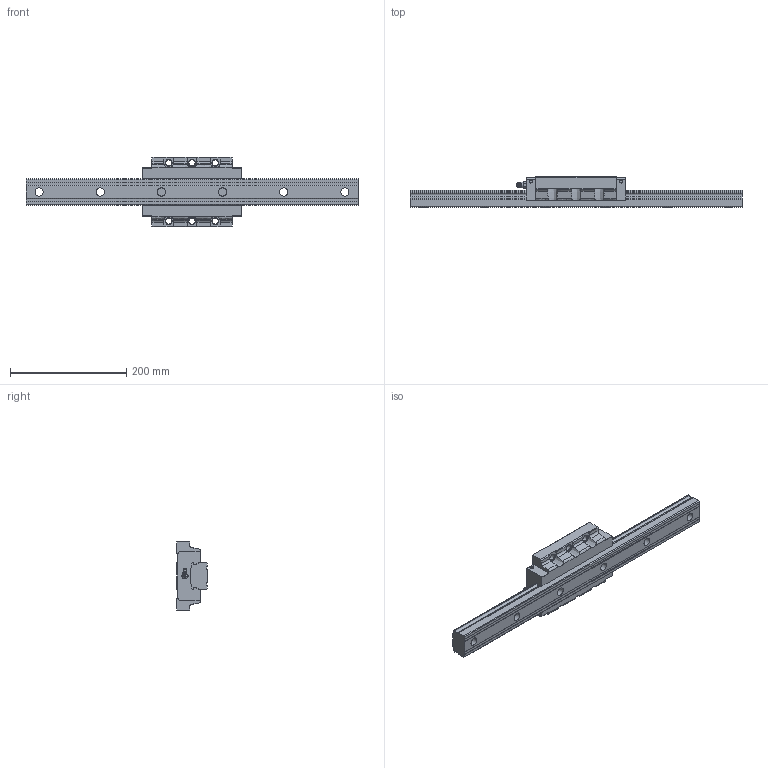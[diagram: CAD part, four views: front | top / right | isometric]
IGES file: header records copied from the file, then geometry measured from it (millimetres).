
Start section: Data from Parasolid IGES Translator 26.0.171, Copyright(c) 2006 Siemens PLM Software. All Rights Reserved.
Global section: file name: SVR45LC1SS-570L_G22-5_0_B-PT18_199-5_0_0_0_1.igs; native system: By Siemens PLM Incorporated; preprocessor: XPlus GENERIC/IGES 26.0.171; author: Noname; organization: Noname; date: 20240517.072342; units: millimetre
Bounding box: 570 x 52 x 120 mm (x, y, z)
Surface area: 166057 mm2 (no closed solid volume)
Topology: 0 solids, 0 shells, 259 faces, 1451 edges, 1406 vertices
Faces by surface type: extrusion 139, revolution 120
